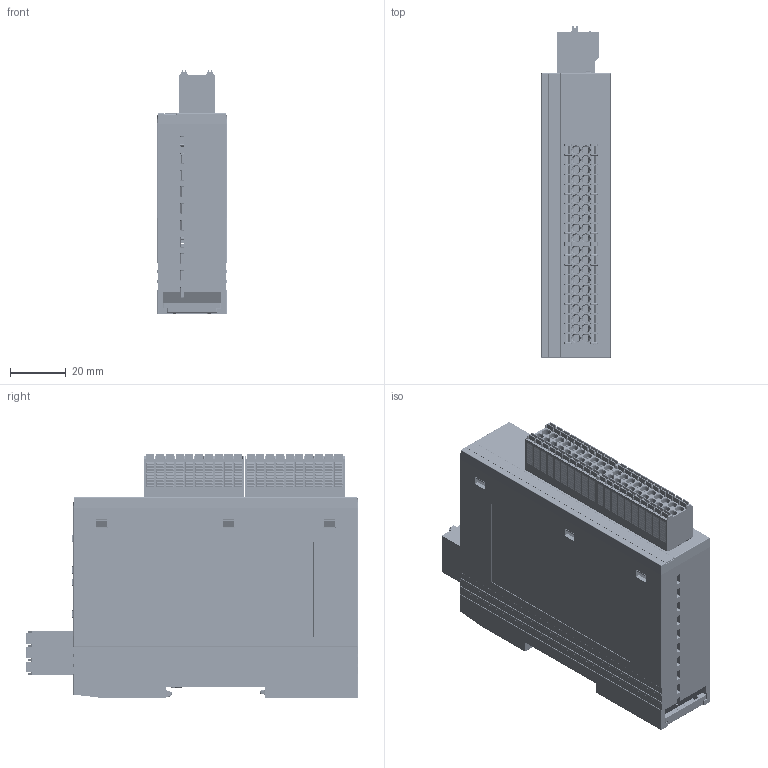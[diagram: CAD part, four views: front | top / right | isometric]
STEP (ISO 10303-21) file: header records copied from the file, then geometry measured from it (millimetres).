
FILE_DESCRIPTION((''),'2;1');
FILE_NAME('PRT0001','2022-07-29T13:40:19',('董'),(''),'CREO PARAMETRIC BY PTC INC, 2020033','CREO PARAMETRIC BY PTC INC, 2020033','');
FILE_SCHEMA(('CONFIG_CONTROL_DESIGN'));
Products named in the file (1): PRT0001
Bounding box: 25 x 118.9 x 87.5 mm (x, y, z)
Volume: 68532.3 mm3; surface area: 78711.6 mm2
Topology: 1 solids, 6 shells, 9736 faces, 25418 edges, 15583 vertices
Faces by surface type: plane 5851, cylinder 2626, bspline 598, cone 257, sphere 216, torus 188
Entity records: 316890 total; most frequent: CARTESIAN_POINT 84234, ORIENTED_EDGE 50472, DIRECTION 44937, EDGE_CURVE 25236, VECTOR 18295, LINE 18295, VERTEX_POINT 15583, AXIS2_PLACEMENT_3D 13321
